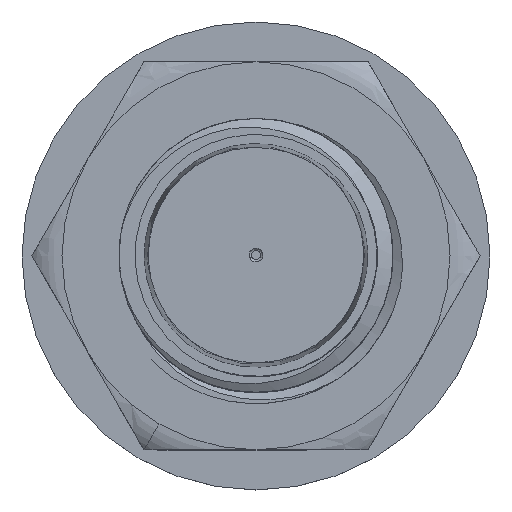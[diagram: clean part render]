
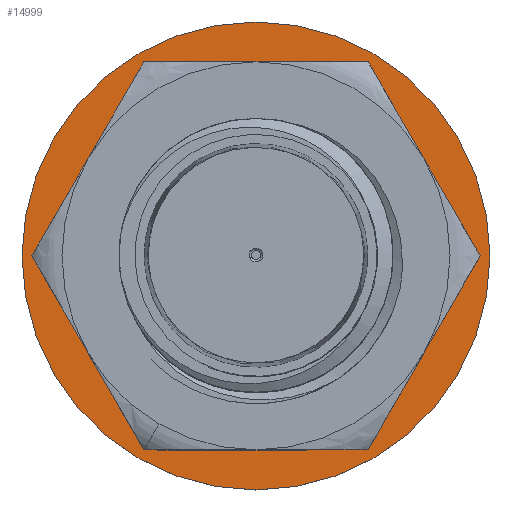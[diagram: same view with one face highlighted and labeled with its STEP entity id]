
A CAD part, top view. The second image highlights one B-rep face of the part: STEP entity #14999.
In plain terms, the highlighted planar face has unit normal (0, 0, 1).
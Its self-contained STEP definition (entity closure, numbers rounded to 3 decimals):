
#351 = EDGE_LOOP ( 'NONE', ( #34157, #20967 ) ) ;
#630 = CARTESIAN_POINT ( 'NONE',  ( 7.5, 0., 1. ) ) ;
#1461 = DIRECTION ( 'NONE',  ( 0., 0., 1. ) ) ;
#2842 = CIRCLE ( 'NONE', #12562, 7.5 ) ;
#3693 = VERTEX_POINT ( 'NONE', #21065 ) ;
#6724 = CARTESIAN_POINT ( 'NONE',  ( 10.25, 0., 1. ) ) ;
#7418 = AXIS2_PLACEMENT_3D ( 'NONE', #21520, #27056, #10459 ) ;
#8013 = EDGE_CURVE ( 'NONE', #35213, #14603, #2842, .T. ) ;
#8920 = EDGE_CURVE ( 'NONE', #31112, #3693, #25595, .T. ) ;
#9824 = AXIS2_PLACEMENT_3D ( 'NONE', #16989, #30187, #27874 ) ;
#10459 = DIRECTION ( 'NONE',  ( 1., 0., 0. ) ) ;
#11312 = EDGE_CURVE ( 'NONE', #14603, #35213, #25073, .T. ) ;
#12562 = AXIS2_PLACEMENT_3D ( 'NONE', #34449, #1461, #34111 ) ;
#14603 = VERTEX_POINT ( 'NONE', #23720 ) ;
#14999 = ADVANCED_FACE ( 'NONE', ( #18518, #23509 ), #29224, .T. ) ;
#16040 = EDGE_CURVE ( 'NONE', #3693, #31112, #16098, .T. ) ;
#16098 = CIRCLE ( 'NONE', #9824, 10.25 ) ;
#16989 = CARTESIAN_POINT ( 'NONE',  ( 0., 0., 1. ) ) ;
#18382 = DIRECTION ( 'NONE',  ( 0., 0., 1. ) ) ;
#18518 = FACE_BOUND ( 'NONE', #20653, .T. ) ;
#20653 = EDGE_LOOP ( 'NONE', ( #27203, #22350 ) ) ;
#20967 = ORIENTED_EDGE ( 'NONE', *, *, #8920, .T. ) ;
#21065 = CARTESIAN_POINT ( 'NONE',  ( -10.25, 0., 1. ) ) ;
#21520 = CARTESIAN_POINT ( 'NONE',  ( 0., 0., 1. ) ) ;
#22350 = ORIENTED_EDGE ( 'NONE', *, *, #8013, .F. ) ;
#23338 = CARTESIAN_POINT ( 'NONE',  ( 0., 0., 1. ) ) ;
#23509 = FACE_OUTER_BOUND ( 'NONE', #351, .T. ) ;
#23720 = CARTESIAN_POINT ( 'NONE',  ( -7.5, 0., 1. ) ) ;
#23858 = DIRECTION ( 'NONE',  ( 1., 0., 0. ) ) ;
#25073 = CIRCLE ( 'NONE', #7418, 7.5 ) ;
#25595 = CIRCLE ( 'NONE', #33612, 10.25 ) ;
#27056 = DIRECTION ( 'NONE',  ( 0., 0., 1. ) ) ;
#27203 = ORIENTED_EDGE ( 'NONE', *, *, #11312, .F. ) ;
#27874 = DIRECTION ( 'NONE',  ( 1., 0., 0. ) ) ;
#29224 = PLANE ( 'NONE',  #33688 ) ;
#29602 = CARTESIAN_POINT ( 'NONE',  ( 0., 0., 1. ) ) ;
#29945 = DIRECTION ( 'NONE',  ( 1., 0., 0. ) ) ;
#30187 = DIRECTION ( 'NONE',  ( 0., 0., 1. ) ) ;
#31112 = VERTEX_POINT ( 'NONE', #6724 ) ;
#31538 = DIRECTION ( 'NONE',  ( 0., 0., 1. ) ) ;
#33612 = AXIS2_PLACEMENT_3D ( 'NONE', #29602, #18382, #29945 ) ;
#33688 = AXIS2_PLACEMENT_3D ( 'NONE', #23338, #31538, #23858 ) ;
#34111 = DIRECTION ( 'NONE',  ( 1., 0., 0. ) ) ;
#34157 = ORIENTED_EDGE ( 'NONE', *, *, #16040, .T. ) ;
#34449 = CARTESIAN_POINT ( 'NONE',  ( 0., 0., 1. ) ) ;
#35213 = VERTEX_POINT ( 'NONE', #630 ) ;
